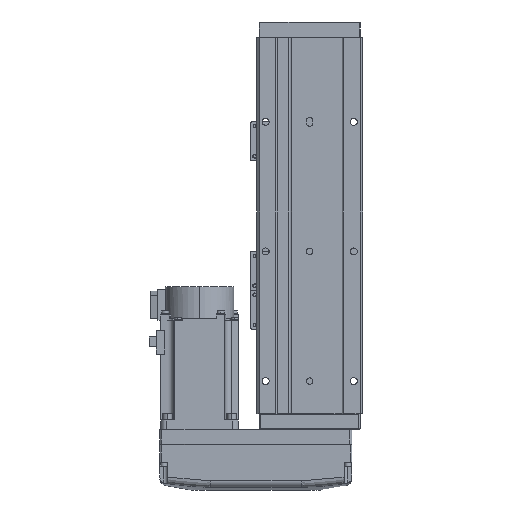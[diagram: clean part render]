
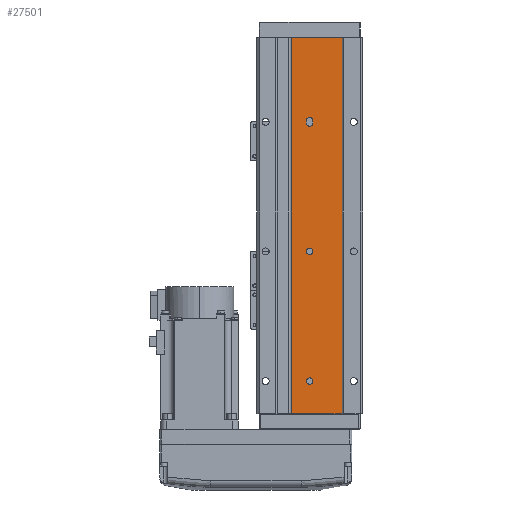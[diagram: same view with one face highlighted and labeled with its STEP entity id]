
A CAD part, front view. The second image highlights one B-rep face of the part: STEP entity #27501.
In plain terms, the highlighted planar face has unit normal (0, -1, 0).
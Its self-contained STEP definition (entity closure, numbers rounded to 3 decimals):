
#120 = CARTESIAN_POINT ( 'NONE',  ( 2.5, 1., -79. ) ) ;
#1515 = CARTESIAN_POINT ( 'NONE',  ( 0., 1., 122.5 ) ) ;
#2010 = CARTESIAN_POINT ( 'NONE',  ( 14., 1., 145. ) ) ;
#2192 = AXIS2_PLACEMENT_3D ( 'NONE', #38857, #10948, #23374 ) ;
#2455 = VECTOR ( 'NONE', #30811, 1000. ) ;
#2848 = EDGE_CURVE ( 'NONE', #24750, #20294, #13438, .T. ) ;
#3226 = CARTESIAN_POINT ( 'NONE',  ( -25., 1., -145. ) ) ;
#3448 = CARTESIAN_POINT ( 'NONE',  ( 0., 1., -81. ) ) ;
#4069 = DIRECTION ( 'NONE',  ( 0., 0., -1. ) ) ;
#4620 = CARTESIAN_POINT ( 'NONE',  ( 0., 1., -83.5 ) ) ;
#4734 = VERTEX_POINT ( 'NONE', #19977 ) ;
#4831 = VERTEX_POINT ( 'NONE', #2010 ) ;
#4978 = CARTESIAN_POINT ( 'NONE',  ( -25., 1., 145. ) ) ;
#5302 = CARTESIAN_POINT ( 'NONE',  ( 0., 1., -81. ) ) ;
#5340 = CARTESIAN_POINT ( 'NONE',  ( 0., 1., 20. ) ) ;
#5600 = DIRECTION ( 'NONE',  ( 0., -1., 0. ) ) ;
#5960 = LINE ( 'NONE', #18401, #2455 ) ;
#6631 = VERTEX_POINT ( 'NONE', #120 ) ;
#7133 = CARTESIAN_POINT ( 'NONE',  ( 0., 1., 117.5 ) ) ;
#7471 = ORIENTED_EDGE ( 'NONE', *, *, #35104, .F. ) ;
#8019 = FACE_BOUND ( 'NONE', #20398, .T. ) ;
#8703 = LINE ( 'NONE', #21153, #29893 ) ;
#8737 = CIRCLE ( 'NONE', #31516, 2.5 ) ;
#9456 = CARTESIAN_POINT ( 'NONE',  ( 0., 1., -79. ) ) ;
#9827 = CARTESIAN_POINT ( 'NONE',  ( 2.5, 1., -79. ) ) ;
#10329 = AXIS2_PLACEMENT_3D ( 'NONE', #5302, #17749, #30158 ) ;
#10421 = EDGE_CURVE ( 'NONE', #6631, #26378, #25936, .T. ) ;
#10601 = EDGE_CURVE ( 'NONE', #17502, #27474, #10994, .T. ) ;
#10881 = DIRECTION ( 'NONE',  ( 0., -1., 0. ) ) ;
#10948 = DIRECTION ( 'NONE',  ( 0., -1., 0. ) ) ;
#10994 = CIRCLE ( 'NONE', #33756, 2.5 ) ;
#11172 = EDGE_CURVE ( 'NONE', #27450, #18181, #8703, .T. ) ;
#11378 = EDGE_LOOP ( 'NONE', ( #11576, #29504, #21529, #12222 ) ) ;
#11576 = ORIENTED_EDGE ( 'NONE', *, *, #22792, .T. ) ;
#11578 = LINE ( 'NONE', #23994, #17802 ) ;
#11641 = EDGE_LOOP ( 'NONE', ( #32557, #25005, #12229, #33391, #36428 ) ) ;
#11826 = EDGE_CURVE ( 'NONE', #13970, #20110, #22700, .T. ) ;
#11891 = AXIS2_PLACEMENT_3D ( 'NONE', #4978, #17435, #29841 ) ;
#12222 = ORIENTED_EDGE ( 'NONE', *, *, #11172, .T. ) ;
#12229 = ORIENTED_EDGE ( 'NONE', *, *, #12903, .F. ) ;
#12344 = CARTESIAN_POINT ( 'NONE',  ( 2.5, 1., -81. ) ) ;
#12693 = EDGE_LOOP ( 'NONE', ( #28757, #7471 ) ) ;
#12903 = EDGE_CURVE ( 'NONE', #20110, #6631, #37738, .T. ) ;
#13438 = CIRCLE ( 'NONE', #36162, 2.5 ) ;
#13970 = VERTEX_POINT ( 'NONE', #4620 ) ;
#15680 = DIRECTION ( 'NONE',  ( 1., 0., 0. ) ) ;
#15905 = DIRECTION ( 'NONE',  ( 0., -1., 0. ) ) ;
#16077 = EDGE_CURVE ( 'NONE', #28875, #13970, #8737, .T. ) ;
#17176 = ORIENTED_EDGE ( 'NONE', *, *, #28639, .F. ) ;
#17435 = DIRECTION ( 'NONE',  ( 0., 1., 0. ) ) ;
#17502 = VERTEX_POINT ( 'NONE', #7133 ) ;
#17506 = EDGE_CURVE ( 'NONE', #4831, #4734, #19584, .T. ) ;
#17749 = DIRECTION ( 'NONE',  ( 0., -1., 0. ) ) ;
#17791 = DIRECTION ( 'NONE',  ( 0., -1., 0. ) ) ;
#17802 = VECTOR ( 'NONE', #36413, 1000. ) ;
#18049 = DIRECTION ( 'NONE',  ( 0., 0., -1. ) ) ;
#18181 = VERTEX_POINT ( 'NONE', #39437 ) ;
#18401 = CARTESIAN_POINT ( 'NONE',  ( -2.5, 1., -79. ) ) ;
#19584 = LINE ( 'NONE', #31992, #22523 ) ;
#19789 = CIRCLE ( 'NONE', #2192, 2.5 ) ;
#19977 = CARTESIAN_POINT ( 'NONE',  ( 14., 1., -145. ) ) ;
#20110 = VERTEX_POINT ( 'NONE', #12344 ) ;
#20294 = VERTEX_POINT ( 'NONE', #32474 ) ;
#20398 = EDGE_LOOP ( 'NONE', ( #37268, #17176 ) ) ;
#20472 = FACE_OUTER_BOUND ( 'NONE', #11378, .T. ) ;
#21153 = CARTESIAN_POINT ( 'NONE',  ( -25., 1., 145. ) ) ;
#21476 = VECTOR ( 'NONE', #22269, 1000. ) ;
#21529 = ORIENTED_EDGE ( 'NONE', *, *, #39320, .F. ) ;
#21916 = DIRECTION ( 'NONE',  ( 0., -1., 0. ) ) ;
#21946 = CARTESIAN_POINT ( 'NONE',  ( -2.5, 1., -81. ) ) ;
#21964 = AXIS2_PLACEMENT_3D ( 'NONE', #33506, #5600, #18049 ) ;
#22269 = DIRECTION ( 'NONE',  ( 0., 0., 1. ) ) ;
#22523 = VECTOR ( 'NONE', #4069, 1000. ) ;
#22700 = CIRCLE ( 'NONE', #10329, 2.5 ) ;
#22792 = EDGE_CURVE ( 'NONE', #18181, #4734, #31140, .T. ) ;
#23135 = CARTESIAN_POINT ( 'NONE',  ( -25., 1., 145. ) ) ;
#23302 = DIRECTION ( 'NONE',  ( 0., 0., -1. ) ) ;
#23374 = DIRECTION ( 'NONE',  ( 0., 0., -1. ) ) ;
#23521 = FACE_BOUND ( 'NONE', #11641, .T. ) ;
#23994 = CARTESIAN_POINT ( 'NONE',  ( -25., 1., 145. ) ) ;
#24750 = VERTEX_POINT ( 'NONE', #25712 ) ;
#25005 = ORIENTED_EDGE ( 'NONE', *, *, #10421, .F. ) ;
#25712 = CARTESIAN_POINT ( 'NONE',  ( 0., 1., 17.5 ) ) ;
#25936 = CIRCLE ( 'NONE', #31144, 2.5 ) ;
#26378 = VERTEX_POINT ( 'NONE', #38103 ) ;
#27450 = VERTEX_POINT ( 'NONE', #23135 ) ;
#27474 = VERTEX_POINT ( 'NONE', #1515 ) ;
#27501 = ADVANCED_FACE ( 'NONE', ( #23521, #35924, #8019, #20472 ), #32881, .F. ) ;
#28318 = DIRECTION ( 'NONE',  ( 0., 0., -1. ) ) ;
#28639 = EDGE_CURVE ( 'NONE', #20294, #24750, #19789, .T. ) ;
#28757 = ORIENTED_EDGE ( 'NONE', *, *, #10601, .F. ) ;
#28875 = VERTEX_POINT ( 'NONE', #21946 ) ;
#29504 = ORIENTED_EDGE ( 'NONE', *, *, #17506, .F. ) ;
#29841 = DIRECTION ( 'NONE',  ( 0., 0., 1. ) ) ;
#29893 = VECTOR ( 'NONE', #33564, 1000. ) ;
#30158 = DIRECTION ( 'NONE',  ( 0., 0., -1. ) ) ;
#30201 = DIRECTION ( 'NONE',  ( 0., 0., -1. ) ) ;
#30811 = DIRECTION ( 'NONE',  ( 0., 0., -1. ) ) ;
#31140 = LINE ( 'NONE', #3226, #38014 ) ;
#31144 = AXIS2_PLACEMENT_3D ( 'NONE', #9456, #21916, #34308 ) ;
#31516 = AXIS2_PLACEMENT_3D ( 'NONE', #3448, #15905, #28318 ) ;
#31992 = CARTESIAN_POINT ( 'NONE',  ( 14., 1., 145. ) ) ;
#32474 = CARTESIAN_POINT ( 'NONE',  ( 0., 1., 22.5 ) ) ;
#32557 = ORIENTED_EDGE ( 'NONE', *, *, #35579, .F. ) ;
#32881 = PLANE ( 'NONE',  #11891 ) ;
#33391 = ORIENTED_EDGE ( 'NONE', *, *, #11826, .F. ) ;
#33506 = CARTESIAN_POINT ( 'NONE',  ( 0., 1., 120. ) ) ;
#33564 = DIRECTION ( 'NONE',  ( 0., 0., -1. ) ) ;
#33756 = AXIS2_PLACEMENT_3D ( 'NONE', #38775, #10881, #23302 ) ;
#34308 = DIRECTION ( 'NONE',  ( 0., 0., -1. ) ) ;
#35104 = EDGE_CURVE ( 'NONE', #27474, #17502, #39495, .T. ) ;
#35579 = EDGE_CURVE ( 'NONE', #26378, #28875, #5960, .T. ) ;
#35924 = FACE_BOUND ( 'NONE', #12693, .T. ) ;
#36162 = AXIS2_PLACEMENT_3D ( 'NONE', #5340, #17791, #30201 ) ;
#36413 = DIRECTION ( 'NONE',  ( 1., 0., 0. ) ) ;
#36428 = ORIENTED_EDGE ( 'NONE', *, *, #16077, .F. ) ;
#37268 = ORIENTED_EDGE ( 'NONE', *, *, #2848, .F. ) ;
#37738 = LINE ( 'NONE', #9827, #21476 ) ;
#38014 = VECTOR ( 'NONE', #15680, 1000. ) ;
#38103 = CARTESIAN_POINT ( 'NONE',  ( -2.5, 1., -79. ) ) ;
#38775 = CARTESIAN_POINT ( 'NONE',  ( 0., 1., 120. ) ) ;
#38857 = CARTESIAN_POINT ( 'NONE',  ( 0., 1., 20. ) ) ;
#39320 = EDGE_CURVE ( 'NONE', #27450, #4831, #11578, .T. ) ;
#39437 = CARTESIAN_POINT ( 'NONE',  ( -25., 1., -145. ) ) ;
#39495 = CIRCLE ( 'NONE', #21964, 2.5 ) ;
